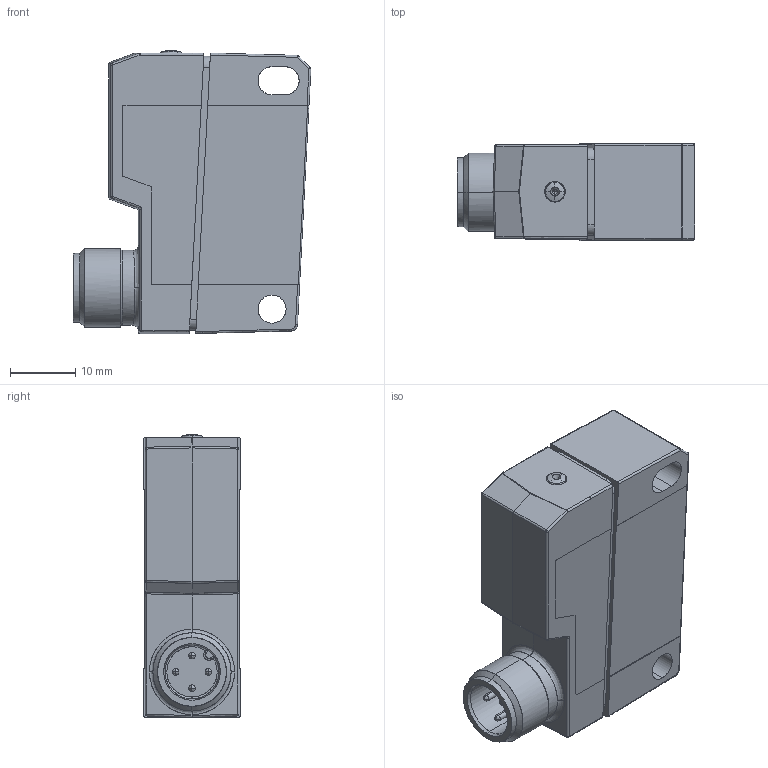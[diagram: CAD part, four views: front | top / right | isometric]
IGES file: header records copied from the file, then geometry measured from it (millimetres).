
Start section: Comment
Global section: file name: xxDK_14_TeachIn_S14.igs; native system:  By UGS Corp.; preprocessor: XPlus GENERIC/IGES 3.0; author: Author; organization: Title; date: 20081111.114141; units: millimetre
Bounding box: 36.45 x 14.8 x 43.4 mm (x, y, z)
Surface area: 5556.9 mm2 (no closed solid volume)
Topology: 0 solids, 0 shells, 190 faces, 904 edges, 882 vertices
Faces by surface type: bspline 190
